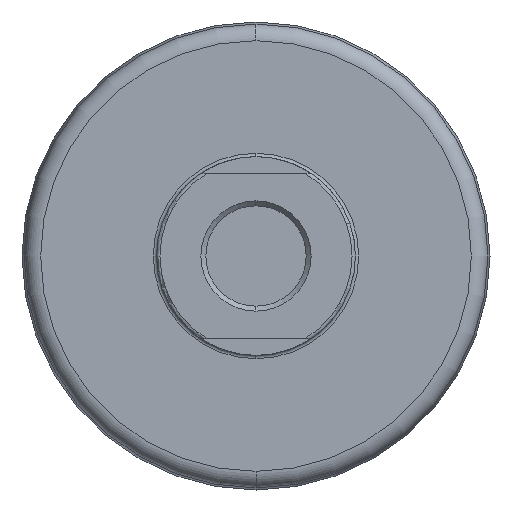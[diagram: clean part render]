
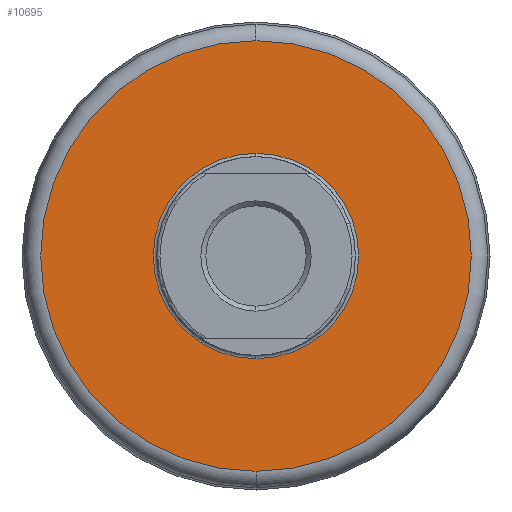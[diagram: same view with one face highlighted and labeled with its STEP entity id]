
A CAD part, front view. The second image highlights one B-rep face of the part: STEP entity #10695.
In plain terms, the highlighted planar face has unit normal (0, -1, 0).
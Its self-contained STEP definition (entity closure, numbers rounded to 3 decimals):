
#114 = DIRECTION ( 'NONE',  ( 0., 0., 1. ) ) ;
#1293 = ORIENTED_EDGE ( 'NONE', *, *, #10010, .T. ) ;
#2471 = CIRCLE ( 'NONE', #4477, 65. ) ;
#2761 = CIRCLE ( 'NONE', #7804, 31. ) ;
#2988 = EDGE_CURVE ( 'NONE', #4783, #16322, #2761, .T. ) ;
#3608 = DIRECTION ( 'NONE',  ( 0., -1., 0. ) ) ;
#3808 = VERTEX_POINT ( 'NONE', #14061 ) ;
#4477 = AXIS2_PLACEMENT_3D ( 'NONE', #13771, #20321, #15351 ) ;
#4783 = VERTEX_POINT ( 'NONE', #7448 ) ;
#4823 = CARTESIAN_POINT ( 'NONE',  ( 83.677, -197.953, 206.519 ) ) ;
#5247 = ORIENTED_EDGE ( 'NONE', *, *, #15967, .F. ) ;
#5707 = ORIENTED_EDGE ( 'NONE', *, *, #18204, .F. ) ;
#6621 = AXIS2_PLACEMENT_3D ( 'NONE', #19806, #11892, #15068 ) ;
#7448 = CARTESIAN_POINT ( 'NONE',  ( 83.677, -197.953, 237.519 ) ) ;
#7804 = AXIS2_PLACEMENT_3D ( 'NONE', #4823, #9497, #114 ) ;
#8050 = FACE_OUTER_BOUND ( 'NONE', #8449, .T. ) ;
#8449 = EDGE_LOOP ( 'NONE', ( #5707, #5247 ) ) ;
#9120 = VERTEX_POINT ( 'NONE', #11203 ) ;
#9497 = DIRECTION ( 'NONE',  ( 0., 1., 0. ) ) ;
#10010 = EDGE_CURVE ( 'NONE', #16322, #4783, #14347, .T. ) ;
#10118 = DIRECTION ( 'NONE',  ( 0., 1., 0. ) ) ;
#10363 = AXIS2_PLACEMENT_3D ( 'NONE', #11701, #10118, #18172 ) ;
#10695 = ADVANCED_FACE ( 'NONE', ( #18787, #8050 ), #11412, .T. ) ;
#11182 = CARTESIAN_POINT ( 'NONE',  ( 83.677, -197.953, 175.519 ) ) ;
#11203 = CARTESIAN_POINT ( 'NONE',  ( 83.677, -197.953, 271.519 ) ) ;
#11412 = PLANE ( 'NONE',  #16041 ) ;
#11701 = CARTESIAN_POINT ( 'NONE',  ( 83.677, -197.953, 206.519 ) ) ;
#11892 = DIRECTION ( 'NONE',  ( 0., 1., 0. ) ) ;
#13029 = CIRCLE ( 'NONE', #6621, 65. ) ;
#13439 = ORIENTED_EDGE ( 'NONE', *, *, #2988, .T. ) ;
#13771 = CARTESIAN_POINT ( 'NONE',  ( 83.677, -197.953, 206.519 ) ) ;
#14061 = CARTESIAN_POINT ( 'NONE',  ( 83.677, -197.953, 141.519 ) ) ;
#14347 = CIRCLE ( 'NONE', #10363, 31. ) ;
#14885 = CARTESIAN_POINT ( 'NONE',  ( 52.677, -197.953, 206.519 ) ) ;
#15068 = DIRECTION ( 'NONE',  ( 0., 0., 1. ) ) ;
#15351 = DIRECTION ( 'NONE',  ( 0., 0., 1. ) ) ;
#15967 = EDGE_CURVE ( 'NONE', #3808, #9120, #2471, .T. ) ;
#16041 = AXIS2_PLACEMENT_3D ( 'NONE', #14885, #3608, #16339 ) ;
#16322 = VERTEX_POINT ( 'NONE', #11182 ) ;
#16339 = DIRECTION ( 'NONE',  ( 0., 0., -1. ) ) ;
#18172 = DIRECTION ( 'NONE',  ( 0., 0., 1. ) ) ;
#18204 = EDGE_CURVE ( 'NONE', #9120, #3808, #13029, .T. ) ;
#18328 = EDGE_LOOP ( 'NONE', ( #13439, #1293 ) ) ;
#18787 = FACE_BOUND ( 'NONE', #18328, .T. ) ;
#19806 = CARTESIAN_POINT ( 'NONE',  ( 83.677, -197.953, 206.519 ) ) ;
#20321 = DIRECTION ( 'NONE',  ( 0., 1., 0. ) ) ;
